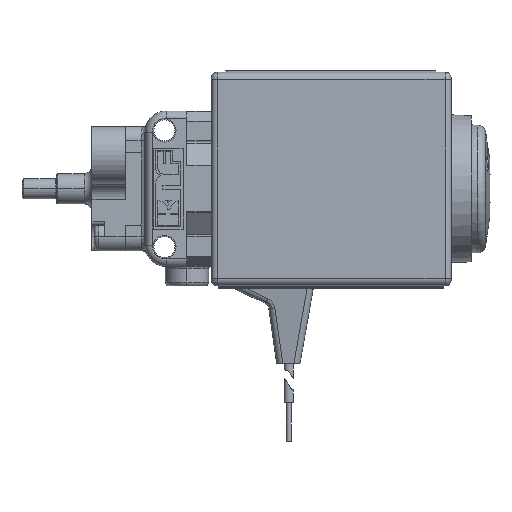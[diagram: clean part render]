
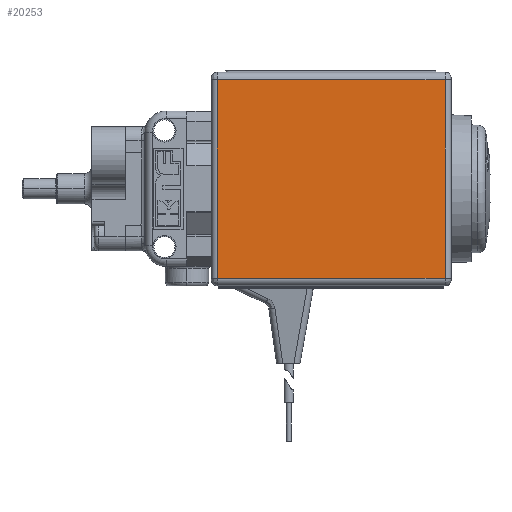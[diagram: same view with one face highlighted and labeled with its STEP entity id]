
A CAD part, left-side view. The second image highlights one B-rep face of the part: STEP entity #20253.
In plain terms, the highlighted planar face has unit normal (-1, 0, 0).
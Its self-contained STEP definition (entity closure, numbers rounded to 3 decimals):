
#378=DIRECTION('',(0.,0.,1.));
#379=VECTOR('',#378,25.5);
#380=CARTESIAN_POINT('',(-11.,-0.8,-11.5));
#381=LINE('',#380,#379);
#382=DIRECTION('',(0.,-1.,0.));
#383=VECTOR('',#382,29.3);
#384=CARTESIAN_POINT('',(-11.,-0.8,14.));
#385=LINE('',#384,#383);
#386=DIRECTION('',(0.,0.,-1.));
#387=VECTOR('',#386,25.5);
#388=CARTESIAN_POINT('',(-11.,-30.1,14.));
#389=LINE('',#388,#387);
#405=DIRECTION('',(0.,-1.,0.));
#406=VECTOR('',#405,29.3);
#407=CARTESIAN_POINT('',(-11.,-0.8,-11.5));
#408=LINE('',#407,#406);
#18871=CARTESIAN_POINT('',(-11.,-0.8,14.));
#18873=VERTEX_POINT('',#18871);
#18883=CARTESIAN_POINT('',(-11.,-0.8,-11.5));
#18884=VERTEX_POINT('',#18883);
#18905=CARTESIAN_POINT('',(-11.,-30.1,14.));
#18906=VERTEX_POINT('',#18905);
#18911=CARTESIAN_POINT('',(-11.,-30.1,-11.5));
#18912=VERTEX_POINT('',#18911);
#20240=CARTESIAN_POINT('',(-11.,-30.9,-12.5));
#20241=DIRECTION('',(-1.,0.,0.));
#20242=DIRECTION('',(0.,0.,1.));
#20243=AXIS2_PLACEMENT_3D('',#20240,#20241,#20242);
#20244=PLANE('',#20243);
#20245=ORIENTED_EDGE('',*,*,#20233,.T.);
#20246=ORIENTED_EDGE('',*,*,#20195,.T.);
#20248=ORIENTED_EDGE('',*,*,#20247,.T.);
#20250=ORIENTED_EDGE('',*,*,#20249,.F.);
#20251=EDGE_LOOP('',(#20245,#20246,#20248,#20250));
#20252=FACE_OUTER_BOUND('',#20251,.F.);
#20253=ADVANCED_FACE('',(#20252),#20244,.T.);
#20195=EDGE_CURVE('',#18873,#18906,#385,.T.);
#20233=EDGE_CURVE('',#18884,#18873,#381,.T.);
#20247=EDGE_CURVE('',#18906,#18912,#389,.T.);
#20249=EDGE_CURVE('',#18884,#18912,#408,.T.);
